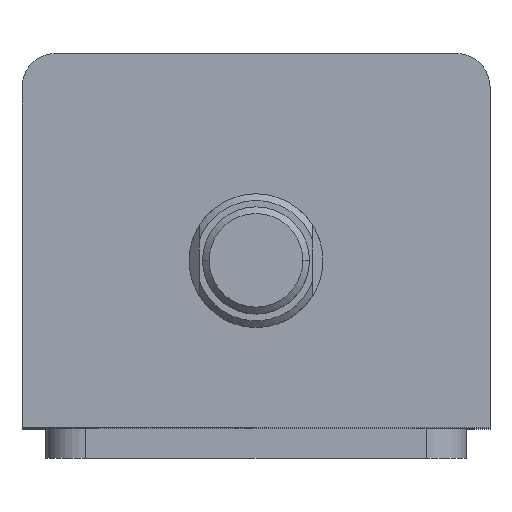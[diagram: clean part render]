
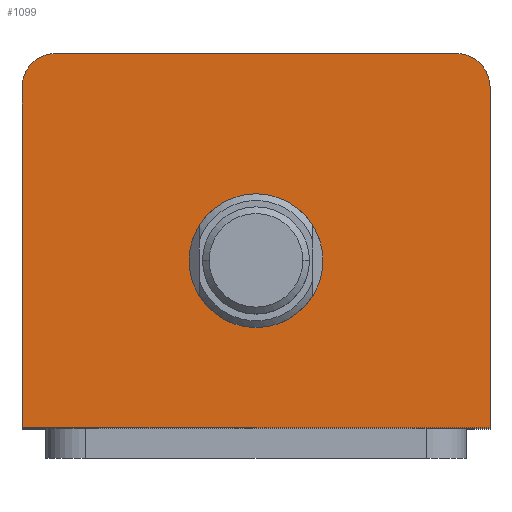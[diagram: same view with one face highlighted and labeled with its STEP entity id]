
A CAD part, top view. The second image highlights one B-rep face of the part: STEP entity #1099.
In plain terms, the highlighted planar face has unit normal (0, 0, 1).
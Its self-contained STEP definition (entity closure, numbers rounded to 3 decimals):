
#61 = AXIS2_PLACEMENT_3D ( 'NONE', #2290, #2289, #2288 ) ;
#63 = AXIS2_PLACEMENT_3D ( 'NONE', #2330, #2329, #2327 ) ;
#70 = AXIS2_PLACEMENT_3D ( 'NONE', #2364, #2363, #2362 ) ;
#118 = AXIS2_PLACEMENT_3D ( 'NONE', #2506, #2505, #2504 ) ;
#201 = AXIS2_PLACEMENT_3D ( 'NONE', #705, #691, #689 ) ;
#385 = LINE ( 'NONE', #2354, #388 ) ;
#388 = VECTOR ( 'NONE', #2348, 1000. ) ;
#398 = CIRCLE ( 'NONE', #118, 10. ) ;
#433 = LINE ( 'NONE', #2460, #435 ) ;
#435 = VECTOR ( 'NONE', #2458, 1000. ) ;
#467 = LINE ( 'NONE', #2395, #470 ) ;
#470 = VECTOR ( 'NONE', #2393, 1000. ) ;
#474 = CIRCLE ( 'NONE', #70, 5. ) ;
#487 = CIRCLE ( 'NONE', #63, 5. ) ;
#493 = LINE ( 'NONE', #2318, #496 ) ;
#496 = VECTOR ( 'NONE', #2317, 1000. ) ;
#519 = CIRCLE ( 'NONE', #61, 10. ) ;
#689 = DIRECTION ( 'NONE',  ( 1., 0., 0. ) ) ;
#691 = DIRECTION ( 'NONE',  ( 0., 0., 1. ) ) ;
#705 = CARTESIAN_POINT ( 'NONE',  ( 0., 0., 104. ) ) ;
#711 = PLANE ( 'NONE',  #201 ) ;
#1099 = ADVANCED_FACE ( 'NONE', ( #3038, #3041 ), #711, .T. ) ;
#1282 = CARTESIAN_POINT ( 'NONE',  ( -35., 23., 104. ) ) ;
#1358 = ORIENTED_EDGE ( 'NONE', *, *, #1917, .T. ) ;
#1433 = ORIENTED_EDGE ( 'NONE', *, *, #1986, .F. ) ;
#1434 = ORIENTED_EDGE ( 'NONE', *, *, #1895, .F. ) ;
#1441 = ORIENTED_EDGE ( 'NONE', *, *, #1941, .T. ) ;
#1442 = ORIENTED_EDGE ( 'NONE', *, *, #1951, .T. ) ;
#1443 = ORIENTED_EDGE ( 'NONE', *, *, #1885, .T. ) ;
#1444 = ORIENTED_EDGE ( 'NONE', *, *, #1965, .T. ) ;
#1445 = ORIENTED_EDGE ( 'NONE', *, *, #1972, .T. ) ;
#1502 = EDGE_LOOP ( 'NONE', ( #1433, #1434 ) ) ;
#1510 = EDGE_LOOP ( 'NONE', ( #1441, #1442, #1443, #1444, #1445, #1358 ) ) ;
#1885 = EDGE_CURVE ( 'NONE', #2670, #2749, #385, .T. ) ;
#1895 = EDGE_CURVE ( 'NONE', #2662, #2667, #398, .T. ) ;
#1917 = EDGE_CURVE ( 'NONE', #2748, #2685, #433, .T. ) ;
#1941 = EDGE_CURVE ( 'NONE', #2685, #2645, #467, .T. ) ;
#1951 = EDGE_CURVE ( 'NONE', #2645, #2670, #474, .T. ) ;
#1965 = EDGE_CURVE ( 'NONE', #2749, #2768, #487, .T. ) ;
#1972 = EDGE_CURVE ( 'NONE', #2768, #2748, #493, .T. ) ;
#1986 = EDGE_CURVE ( 'NONE', #2667, #2662, #519, .T. ) ;
#2153 = CARTESIAN_POINT ( 'NONE',  ( -30., 28., 104. ) ) ;
#2154 = CARTESIAN_POINT ( 'NONE',  ( -35., -28., 104. ) ) ;
#2220 = CARTESIAN_POINT ( 'NONE',  ( 35., -28., 104. ) ) ;
#2235 = CARTESIAN_POINT ( 'NONE',  ( 30., 28., 104. ) ) ;
#2238 = CARTESIAN_POINT ( 'NONE',  ( 10., -3., 104. ) ) ;
#2243 = CARTESIAN_POINT ( 'NONE',  ( -10., -3., 104. ) ) ;
#2257 = CARTESIAN_POINT ( 'NONE',  ( 35., 23., 104. ) ) ;
#2288 = DIRECTION ( 'NONE',  ( 1., 0., 0. ) ) ;
#2289 = DIRECTION ( 'NONE',  ( 0., 0., 1. ) ) ;
#2290 = CARTESIAN_POINT ( 'NONE',  ( 0., -3., 104. ) ) ;
#2317 = DIRECTION ( 'NONE',  ( 0., -1., 0. ) ) ;
#2318 = CARTESIAN_POINT ( 'NONE',  ( -35., 28., 104. ) ) ;
#2327 = DIRECTION ( 'NONE',  ( 1., 0., 0. ) ) ;
#2329 = DIRECTION ( 'NONE',  ( 0., 0., 1. ) ) ;
#2330 = CARTESIAN_POINT ( 'NONE',  ( -30., 23., 104. ) ) ;
#2348 = DIRECTION ( 'NONE',  ( -1., 0., 0. ) ) ;
#2354 = CARTESIAN_POINT ( 'NONE',  ( -35., 28., 104. ) ) ;
#2362 = DIRECTION ( 'NONE',  ( 1., 0., 0. ) ) ;
#2363 = DIRECTION ( 'NONE',  ( 0., 0., 1. ) ) ;
#2364 = CARTESIAN_POINT ( 'NONE',  ( 30., 23., 104. ) ) ;
#2393 = DIRECTION ( 'NONE',  ( 0., 1., 0. ) ) ;
#2395 = CARTESIAN_POINT ( 'NONE',  ( 35., 28., 104. ) ) ;
#2458 = DIRECTION ( 'NONE',  ( 1., 0., 0. ) ) ;
#2460 = CARTESIAN_POINT ( 'NONE',  ( -35., -28., 104. ) ) ;
#2504 = DIRECTION ( 'NONE',  ( 1., 0., 0. ) ) ;
#2505 = DIRECTION ( 'NONE',  ( 0., 0., 1. ) ) ;
#2506 = CARTESIAN_POINT ( 'NONE',  ( 0., -3., 104. ) ) ;
#2645 = VERTEX_POINT ( 'NONE', #2257 ) ;
#2662 = VERTEX_POINT ( 'NONE', #2243 ) ;
#2667 = VERTEX_POINT ( 'NONE', #2238 ) ;
#2670 = VERTEX_POINT ( 'NONE', #2235 ) ;
#2685 = VERTEX_POINT ( 'NONE', #2220 ) ;
#2748 = VERTEX_POINT ( 'NONE', #2154 ) ;
#2749 = VERTEX_POINT ( 'NONE', #2153 ) ;
#2768 = VERTEX_POINT ( 'NONE', #1282 ) ;
#3038 = FACE_BOUND ( 'NONE', #1502, .T. ) ;
#3041 = FACE_OUTER_BOUND ( 'NONE', #1510, .T. ) ;
